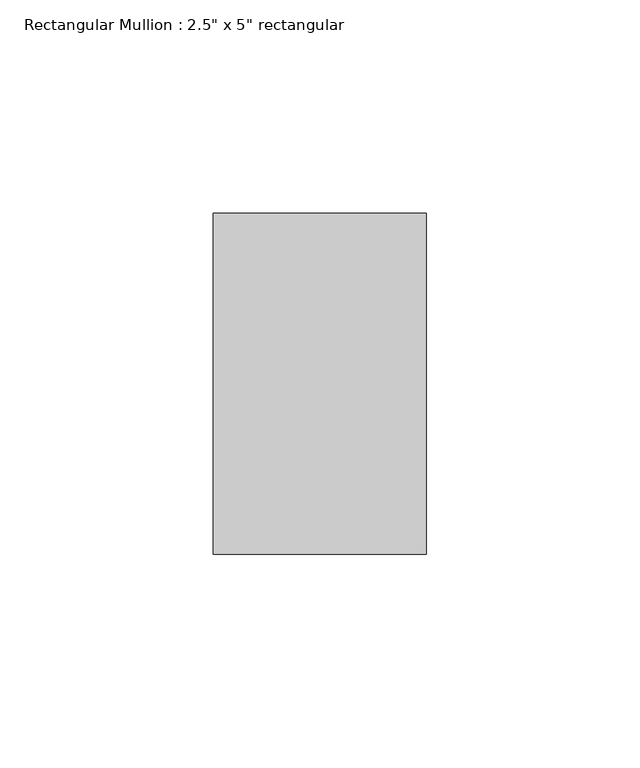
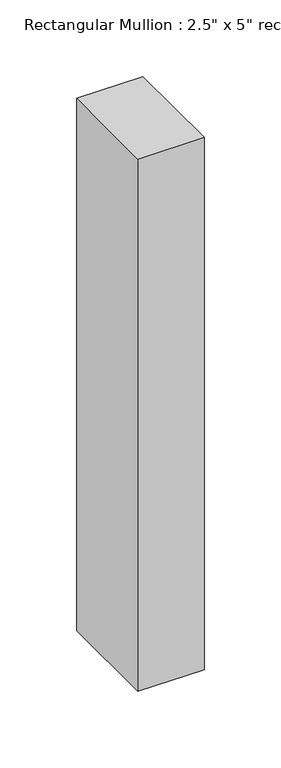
"""IFC4 building model written with IfcOpenShell, lengths in millimetres: member geometry."""

from ifc_helpers import new_model, si_unit, frame, origin, place, context, project, spatial, polyline, outline, extrude, source, transform, mapped, element, save


def member_a46e3cf1(model_context):
    return source(origin(), model_context, "Body", "SweptSolid", [
        extrude(outline(polyline([(25.0, 40.0), (25.0, -40.0), (-25.0, -40.0), (-25.0, 40.0), (25.0, 40.0)])), frame((0.0, 0.0, -424.4373471), z_axis=(0.0, 0.0, 1.0), x_axis=(1.0, 0.0, 0.0)), (0.0, 0.0, 1.0), 424.4373471),
    ])


if __name__ == "__main__":
    model = new_model("IFC4")
    model_context = context("Model", 3, world=origin())
    ifc_project = project(units=[si_unit("LENGTHUNIT", "METRE", prefix="MILLI")], contexts=[model_context])
    site = spatial("IfcSite", under=ifc_project)
    building = spatial("IfcBuilding", under=site)
    placement = place(None, origin())
    member_shape = member_a46e3cf1(model_context)
    element("IfcMember", 1, ObjectType="Rectangular Mullion : 2.5\" x 5\" rectangular", at=placement, inside=building, context=model_context, shape_type="MappedRepresentation", body=[
        mapped(member_shape, transform((0.0, 0.0, 0.0), x_axis=(1.0, 0.0, 0.0), y_axis=(0.0, 1.0, 0.0), z_axis=(0.0, 0.0, 1.0))),
    ])
    save(model, "model.ifc")
